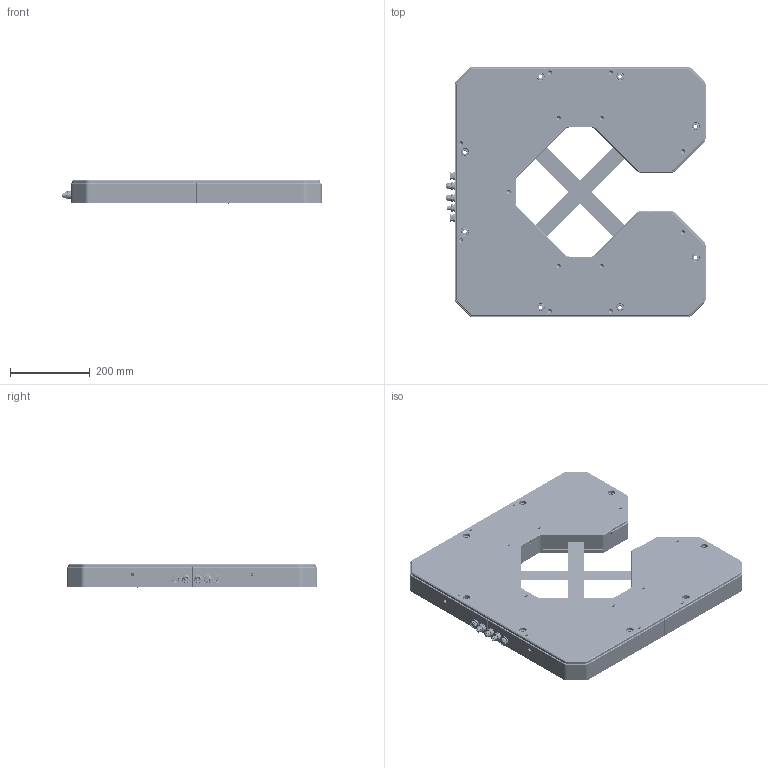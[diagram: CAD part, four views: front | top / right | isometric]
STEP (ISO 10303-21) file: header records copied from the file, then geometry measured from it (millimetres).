
FILE_DESCRIPTION((''),'2;1');
FILE_NAME('0000751167_ASM','2025-01-08T08:18:04',('11001218'),(''),'CREO PARAMETRIC BY PTC INC, 2023154','CREO PARAMETRIC BY PTC INC, 2023154','');
FILE_SCHEMA(('AUTOMOTIVE_DESIGN { 1 0 10303 214 1 1 1 1 }'));
Products named in the file (11): 0000760417; 0000751538; 0000588124; 0000751161_AF0; 0000751164_AF0; 0000751165_ASM; 0000039430; 0323323; 0000589023; 0000781928; 0000751167_ASM
Assembly tree (16 placements, depth 3):
  0000751167_ASM
    0000760417
    0000751538
    0000588124  x4
    0000751165_ASM  x2
      0000751161_AF0
      0000751164_AF0
    0000039430
    0323323  x2
    0000589023  x2
    0000781928
Bounding box: 651.35 x 630 x 58 mm (x, y, z)
Volume: 8664609.1 mm3; surface area: 2096125.7 mm2
Topology: 91 solids, 275 shells, 11368 faces, 29508 edges, 18506 vertices
Faces by surface type: cylinder 4491, plane 3340, cone 2212, torus 949, bspline 348, sphere 28
Entity records: 380249 total; most frequent: CARTESIAN_POINT 120131, DIRECTION 35294, ORIENTED_EDGE 32242, PRESENTATION_STYLE_ASSIGNMENT 21792, STYLED_ITEM 17117, CURVE_STYLE 17012, EDGE_CURVE 16264, AXIS2_PLACEMENT_3D 13844
